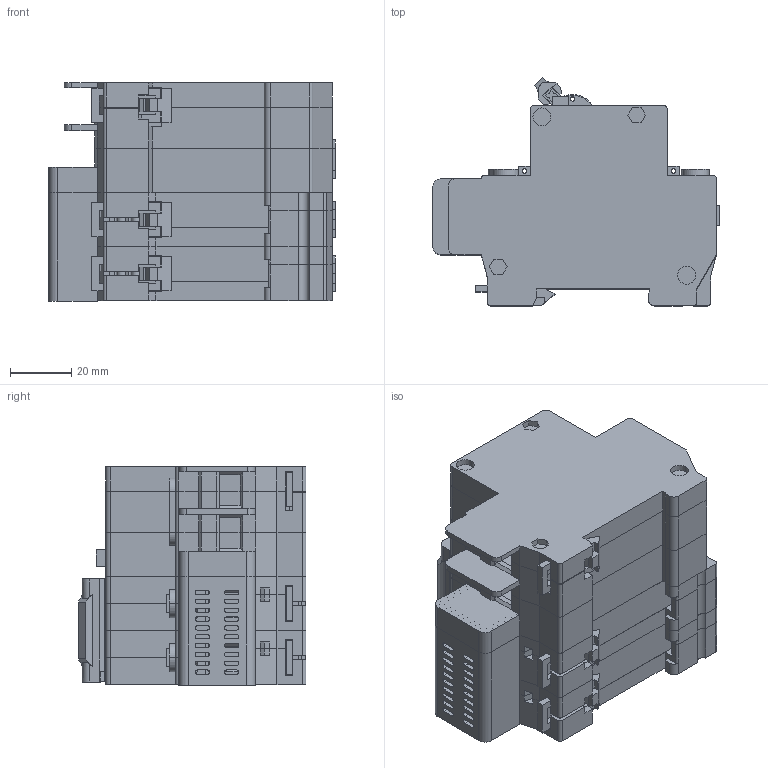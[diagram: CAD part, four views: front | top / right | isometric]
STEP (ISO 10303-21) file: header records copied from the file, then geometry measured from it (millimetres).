
FILE_DESCRIPTION (( 'STEP AP214' ), '1' );
FILE_NAME ('ﾀﾄ12 63ﾀ.STEP', '2022-11-18T10:24:22', ( '' ), ( '' ), 'SwSTEP 2.0', 'SolidWorks 2018', '' );
FILE_SCHEMA (( 'AUTOMOTIVE_DESIGN' ));
Length unit declared in the file: millimetre
Products named in the file (21): ﾂﾀ47-29 2ﾕ Changan 04.2022; ﾂﾀ47-29 1ﾕ Changan 04.2022_尚皚･､ｭｨｩ ｯｮｫ髜; Áîêîâèíà ïðàâàÿ (ÀÄ12-14 Changan) 09.2022_63€; 鎔艜 (臍47-29) 14.02.2022; Ñåðåäèíà ïåðåä êíîïêîé (ÀÄ12-14 Changan) (9.09.2022)_63€; 青觌屣赅 (吕47-29 OFA) 04.2022_2 釥; Êíîïêà âîçâðàò; Ðó÷êà (ÂÀ47-29 Changan) 04.2022; Êîëîäêà (ÂÀ47-29) 14.02.2022; Áîêîâèíà ëåâàÿ (ÂÀ47-29 Changan) 04.2022; ﾂ鏆鮏 (ﾂﾀ47-29 OFA) 14.02.2022; 青汶篪赅 (吕47-29) 14.02.2022; 扱闀罻 蠈嚦 斂12 OFA 04.2022; Çàùåëêà (ÂÀ47-29 Changan) 04.2022; ﾀﾄ12 63ﾀ; ч蜱齁罻 倢昅; Áîêîâèíà ïðàâàÿ (ÂÀ47-29 Changan) 04.2022; ÂÀ47-29 1Õ Changan 04.2022_1 ¤«ï 2; Êðûøêà ïîä ïðîâîäà ÀÄ12-14 Changan 04.2022_2 ¯®«îá ; Ëåâàÿ áîêîâèíà  (ÀÄ12-14 Changan) 04.2022_63€; Ñêîáà (ÂÀ47-29 OFA) 04.2022_2 ¯®«îá 
Assembly tree (43 placements, depth 4):
  ﾀﾄ12 63ﾀ
    Ëåâàÿ áîêîâèíà  (ÀÄ12-14 Changan) 04.2022_63€
    Ñåðåäèíà ïåðåä êíîïêîé (ÀÄ12-14 Changan) (9.09.2022)_63€
    Êðûøêà ïîä ïðîâîäà ÀÄ12-14 Changan 04.2022_2 ¯®«îá 
    ﾂﾀ47-29 2ﾕ Changan 04.2022
      ÂÀ47-29 1Õ Changan 04.2022_1 ¤«ï 2
        Áîêîâèíà ïðàâàÿ (ÂÀ47-29 Changan) 04.2022
        Áîêîâèíà ëåâàÿ (ÂÀ47-29 Changan) 04.2022
        Çàùåëêà (ÂÀ47-29 Changan) 04.2022
        Ðó÷êà (ÂÀ47-29 Changan) 04.2022
        青觌屣赅 (吕47-29 OFA) 04.2022_2 釥  x4
        青汶篪赅 (吕47-29) 14.02.2022  x2
        鎔艜 (臍47-29) 14.02.2022  x2
        ﾂ鏆鮏 (ﾂﾀ47-29 OFA) 14.02.2022  x2
        Êîëîäêà (ÂÀ47-29) 14.02.2022  x2
      ﾂﾀ47-29 1ﾕ Changan 04.2022_尚皚･､ｭｨｩ ｯｮｫ髜
        Áîêîâèíà ïðàâàÿ (ÂÀ47-29 Changan) 04.2022
        Áîêîâèíà ëåâàÿ (ÂÀ47-29 Changan) 04.2022
        Çàùåëêà (ÂÀ47-29 Changan) 04.2022
        Ðó÷êà (ÂÀ47-29 Changan) 04.2022
        青汶篪赅 (吕47-29) 14.02.2022  x2
        鎔艜 (臍47-29) 14.02.2022  x2
        ﾂ鏆鮏 (ﾂﾀ47-29 OFA) 14.02.2022  x2
        Êîëîäêà (ÂÀ47-29) 14.02.2022  x2
      Ñêîáà (ÂÀ47-29 OFA) 04.2022_2 ¯®«îá   x2
    Áîêîâèíà ïðàâàÿ (ÀÄ12-14 Changan) 09.2022_63€
    Çàùåëêà (ÂÀ47-29 Changan) 04.2022
    扱闀罻 蠈嚦 斂12 OFA 04.2022
    Êíîïêà âîçâðàò
    ч蜱齁罻 倢昅
    鎔艜 (臍47-29) 14.02.2022  x2
Bounding box: 94 x 74.7 x 71.6 mm (x, y, z)
Volume: 270372 mm3; surface area: 118730.8 mm2
Topology: 40 solids, 40 shells, 2455 faces, 6684 edges, 4340 vertices
Faces by surface type: plane 1813, cylinder 566, torus 76
Entity records: 38144 total; most frequent: CARTESIAN_POINT 6675, ORIENTED_EDGE 6466, DIRECTION 6242, EDGE_CURVE 3233, VECTOR 2582, LINE 2582, VERTEX_POINT 2119, AXIS2_PLACEMENT_3D 1830
